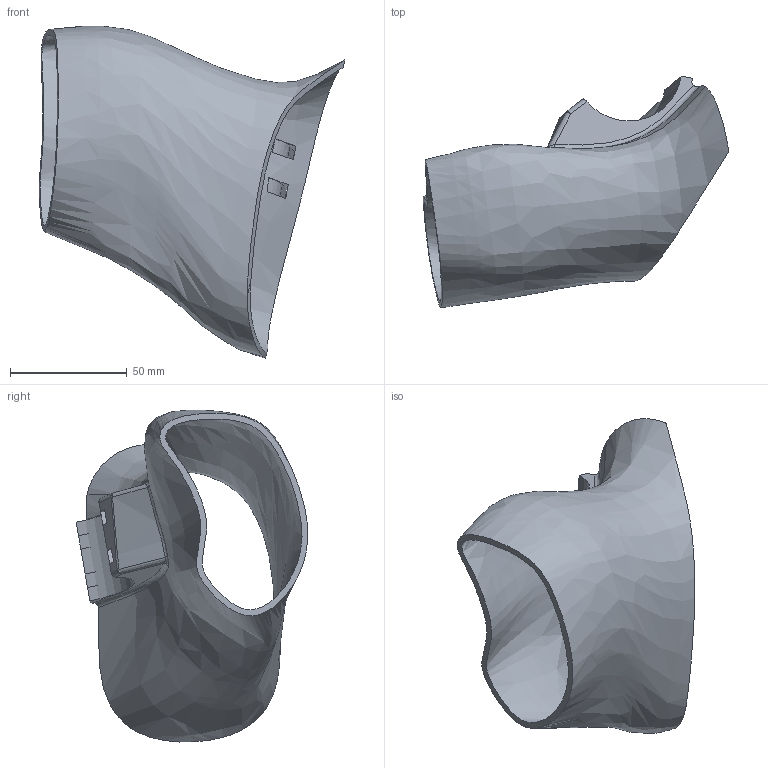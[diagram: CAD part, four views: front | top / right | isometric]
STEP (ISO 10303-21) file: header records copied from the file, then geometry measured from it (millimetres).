
FILE_DESCRIPTION(/* description */ ('STEP AP242','CAx-IF Rec.Pracs.---Representation and Presentation of Product Manufacturing Information (PMI)---4.0---2014-10-13','CAx-IF Rec.Pracs.---3D Tessellated Geometry---0.4---2014-09-14','2;1'),/* implementation_level */ '2;1');
FILE_NAME(/* name */ '65decdd4c68ba23d61067188',/* time_stamp */ '2024-02-28T06:08:20Z',/* author */ (''),/* organization */ (''),/* preprocessor_version */ 'ST-DEVELOPER v19.4',/* originating_system */ ' ',/* authorisation */ ' ');
FILE_SCHEMA (('AP242_MANAGED_MODEL_BASED_3D_ENGINEERING_MIM_LF { 1 0 10303 442 1 1 4 }'));
Length unit declared in the file: metre
Products named in the file (1): Duct 2R
Bounding box: 131.1 x 99.36 x 142.44 mm (x, y, z)
Volume: 94869.7 mm3; surface area: 64806.4 mm2
Topology: 1 solids, 1 shells, 46 faces, 134 edges, 84 vertices
Faces by surface type: plane 23, bspline 17, cylinder 5, sphere 1
Entity records: 4956 total; most frequent: CARTESIAN_POINT 3948, ORIENTED_EDGE 252, DIRECTION 128, EDGE_CURVE 126, VERTEX_POINT 80, B_SPLINE_CURVE_WITH_KNOTS 68, EDGE_LOOP 52, FACE_BOUND 52
